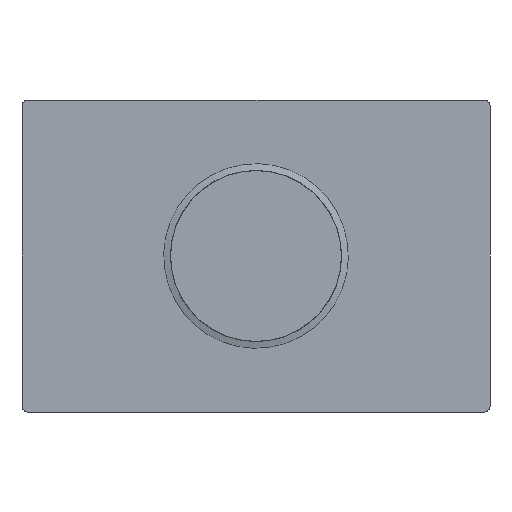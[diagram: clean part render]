
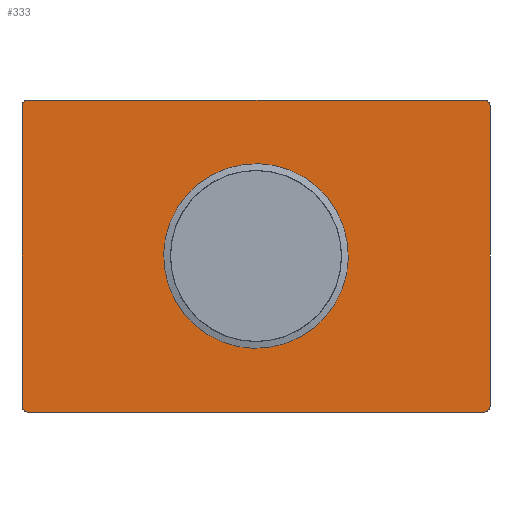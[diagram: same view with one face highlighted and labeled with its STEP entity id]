
A CAD part, front view. The second image highlights one B-rep face of the part: STEP entity #333.
In plain terms, the highlighted planar face has unit normal (0, -1, 0).
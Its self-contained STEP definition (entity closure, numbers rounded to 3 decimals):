
#17=LINE('',#542,#33);
#21=LINE('',#554,#37);
#25=LINE('',#566,#41);
#29=LINE('',#576,#45);
#33=VECTOR('',#447,158.);
#37=VECTOR('',#459,240.);
#41=VECTOR('',#471,158.);
#45=VECTOR('',#483,240.);
#54=FACE_BOUND('',#115,.T.);
#86=FACE_OUTER_BOUND('',#114,.T.);
#114=EDGE_LOOP('',(#256,#257,#258,#259,#260,#261,#262,#263));
#115=EDGE_LOOP('',(#264));
#134=CIRCLE('',#377,3.);
#136=CIRCLE('',#381,3.);
#138=CIRCLE('',#385,3.);
#140=CIRCLE('',#389,3.);
#142=CIRCLE('',#393,48.5);
#155=VERTEX_POINT('',#531);
#156=VERTEX_POINT('',#533);
#159=VERTEX_POINT('',#540);
#161=VERTEX_POINT('',#546);
#163=VERTEX_POINT('',#552);
#165=VERTEX_POINT('',#558);
#167=VERTEX_POINT('',#564);
#169=VERTEX_POINT('',#570);
#170=VERTEX_POINT('',#578);
#183=EDGE_CURVE('',#156,#155,#134,.T.);
#187=EDGE_CURVE('',#159,#155,#17,.T.);
#190=EDGE_CURVE('',#159,#161,#136,.T.);
#193=EDGE_CURVE('',#161,#163,#21,.T.);
#196=EDGE_CURVE('',#163,#165,#138,.T.);
#199=EDGE_CURVE('',#165,#167,#25,.T.);
#202=EDGE_CURVE('',#167,#169,#140,.T.);
#205=EDGE_CURVE('',#156,#169,#29,.T.);
#206=EDGE_CURVE('',#170,#170,#142,.T.);
#256=ORIENTED_EDGE('',*,*,#196,.T.);
#257=ORIENTED_EDGE('',*,*,#199,.T.);
#258=ORIENTED_EDGE('',*,*,#202,.T.);
#259=ORIENTED_EDGE('',*,*,#205,.F.);
#260=ORIENTED_EDGE('',*,*,#183,.T.);
#261=ORIENTED_EDGE('',*,*,#187,.F.);
#262=ORIENTED_EDGE('',*,*,#190,.T.);
#263=ORIENTED_EDGE('',*,*,#193,.T.);
#264=ORIENTED_EDGE('',*,*,#206,.F.);
#291=PLANE('',#392);
#333=ADVANCED_FACE('',(#86,#54),#291,.T.);
#377=AXIS2_PLACEMENT_3D('',#534,#439,#440);
#381=AXIS2_PLACEMENT_3D('',#548,#452,#453);
#385=AXIS2_PLACEMENT_3D('',#560,#464,#465);
#389=AXIS2_PLACEMENT_3D('',#572,#476,#477);
#392=AXIS2_PLACEMENT_3D('',#577,#484,#485);
#393=AXIS2_PLACEMENT_3D('',#579,#486,#487);
#439=DIRECTION('center_axis',(0.,-1.,0.));
#440=DIRECTION('ref_axis',(1.,0.,0.));
#447=DIRECTION('',(0.,0.,1.));
#452=DIRECTION('center_axis',(0.,-1.,0.));
#453=DIRECTION('ref_axis',(1.,0.,0.));
#459=DIRECTION('',(1.,0.,0.));
#464=DIRECTION('center_axis',(0.,-1.,0.));
#465=DIRECTION('ref_axis',(1.,0.,0.));
#471=DIRECTION('',(0.,0.,1.));
#476=DIRECTION('center_axis',(0.,-1.,0.));
#477=DIRECTION('ref_axis',(1.,0.,0.));
#483=DIRECTION('',(1.,0.,0.));
#484=DIRECTION('center_axis',(0.,-1.,0.));
#485=DIRECTION('ref_axis',(1.,0.,0.));
#486=DIRECTION('center_axis',(0.,-1.,0.));
#487=DIRECTION('ref_axis',(1.,0.,0.));
#531=CARTESIAN_POINT('',(-123.,-12.,79.));
#533=CARTESIAN_POINT('',(-120.,-12.,82.));
#534=CARTESIAN_POINT('Origin',(-120.,-12.,79.));
#540=CARTESIAN_POINT('',(-123.,-12.,-79.));
#542=CARTESIAN_POINT('',(-123.,-12.,-79.));
#546=CARTESIAN_POINT('',(-120.,-12.,-82.));
#548=CARTESIAN_POINT('Origin',(-120.,-12.,-79.));
#552=CARTESIAN_POINT('',(120.,-12.,-82.));
#554=CARTESIAN_POINT('',(-120.,-12.,-82.));
#558=CARTESIAN_POINT('',(123.,-12.,-79.));
#560=CARTESIAN_POINT('Origin',(120.,-12.,-79.));
#564=CARTESIAN_POINT('',(123.,-12.,79.));
#566=CARTESIAN_POINT('',(123.,-12.,-79.));
#570=CARTESIAN_POINT('',(120.,-12.,82.));
#572=CARTESIAN_POINT('Origin',(120.,-12.,79.));
#576=CARTESIAN_POINT('',(-120.,-12.,82.));
#577=CARTESIAN_POINT('Origin',(0.,-12.,0.));
#578=CARTESIAN_POINT('',(-23.252,-12.,42.563));
#579=CARTESIAN_POINT('Origin',(0.,-12.,0.));
